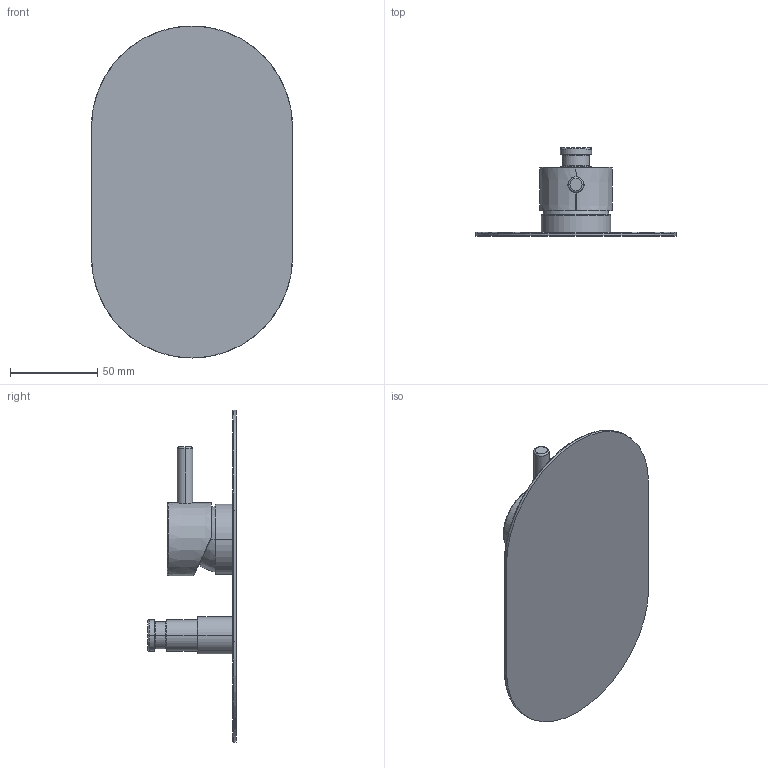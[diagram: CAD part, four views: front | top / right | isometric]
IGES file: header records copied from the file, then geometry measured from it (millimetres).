
Start section:  PTC IGES file: 12010.igs
Global section: file name: 12010.igs; native system: Creo Parametric by PTC Inc.; preprocessor: 2022014; author: carloff; organization: Unknown; date: 20250226.163256; units: millimetre
Bounding box: 115 x 50.6 x 190 mm (x, y, z)
Surface area: 54997 mm2 (no closed solid volume)
Topology: 0 solids, 0 shells, 192 faces, 968 edges, 966 vertices
Faces by surface type: revolution 112, bspline 80
